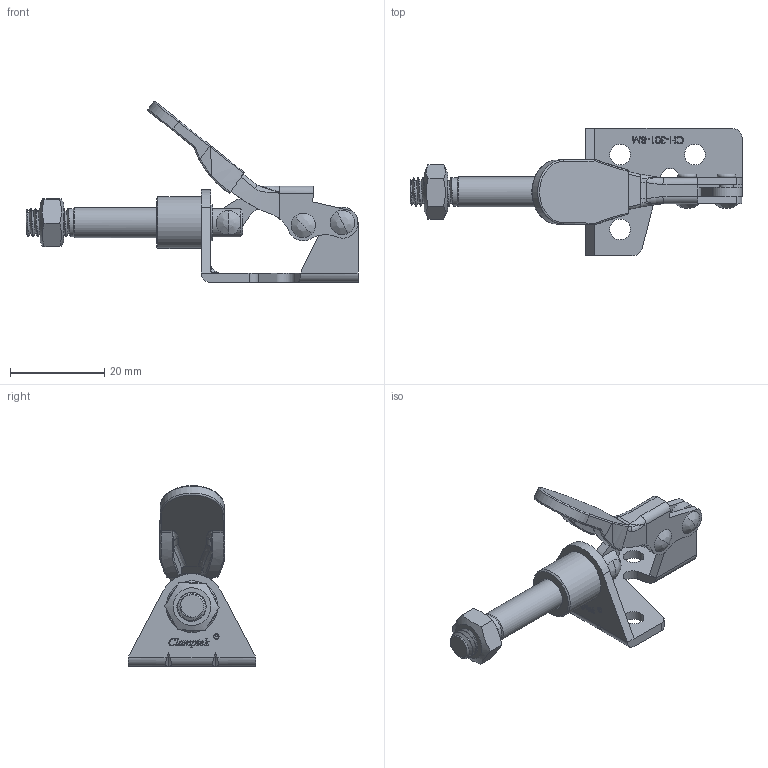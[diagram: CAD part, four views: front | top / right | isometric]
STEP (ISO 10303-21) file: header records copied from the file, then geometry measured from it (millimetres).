
FILE_DESCRIPTION(/* description */ ('STEP AP203'),/* implementation_level */ '2;1');
FILE_NAME(/* name */ 'D:\Vault_2016\Projekty\STRONA\Push-pull clamp\CH-301-BM\CH-301-BM_ZAMKNIETY.stp',/* time_stamp */ '2019-01-10T11:47:19+01:00',/* author */ ('user'),/* organization */ ('Î¢ÈíÖÐ¹ú'),/* preprocessor_version */ 'ST-DEVELOPER v17.2',/* originating_system */ 'Autodesk Inventor 2019',/* authorisation */ '');
FILE_SCHEMA (('AUTOMOTIVE_DESIGN { 1 0 10303 214 3 1 1 }'));
Length unit declared in the file: millimetre
Products named in the file (11): CH-301-BM_ZAMKNIETY; CH-301-BM-01 BASE; CH-301-AM-04 CONNECTING-PLATE; CH-301-AM-03 HANDLE; CH-301-03-01; CH-301-03-02; M6 NUT; CH-301-BM-03; CH-301-07; CH-301-AM-05 LEAD SET; CH-301-06
Assembly tree (11 placements, depth 3):
  CH-301-BM_ZAMKNIETY
    CH-301-BM-01 BASE
    CH-301-AM-04 CONNECTING-PLATE
    CH-301-AM-03 HANDLE
      CH-301-03-01
      CH-301-03-02
    M6 NUT
    CH-301-BM-03
    CH-301-07
    CH-301-06  x2
    CH-301-AM-05 LEAD SET
Bounding box: 70.52 x 27 x 38.41 mm (x, y, z)
Volume: 5699.9 mm3; surface area: 8557.1 mm2
Topology: 10 solids, 10 shells, 616 faces, 1706 edges, 1130 vertices
Faces by surface type: plane 247, bspline 217, cylinder 116, cone 25, torus 11
Full cylindrical faces by diameter (mm): 1.033 x1, 1.17 x1, 2.4 x1, 3 x12, 4.4 x3, 4.8 x5, 6 x9, 6.4 x2, 7.7 x2, 11 x1
Entity records: 33596 total; most frequent: CARTESIAN_POINT 19095, ORIENTED_EDGE 3352, DIRECTION 2241, EDGE_CURVE 1676, VERTEX_POINT 1118, LINE 835, VECTOR 835, AXIS2_PLACEMENT_3D 703
